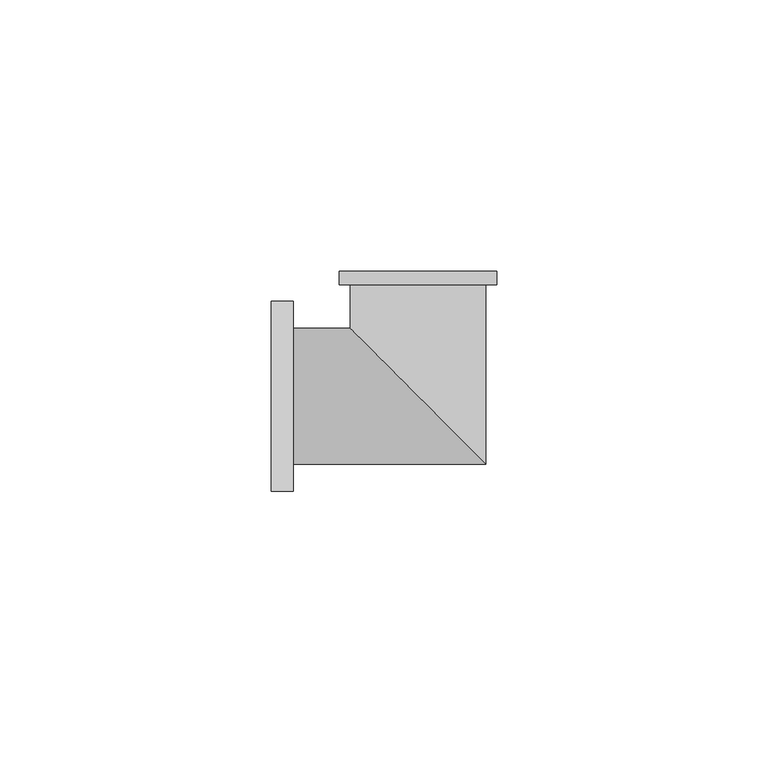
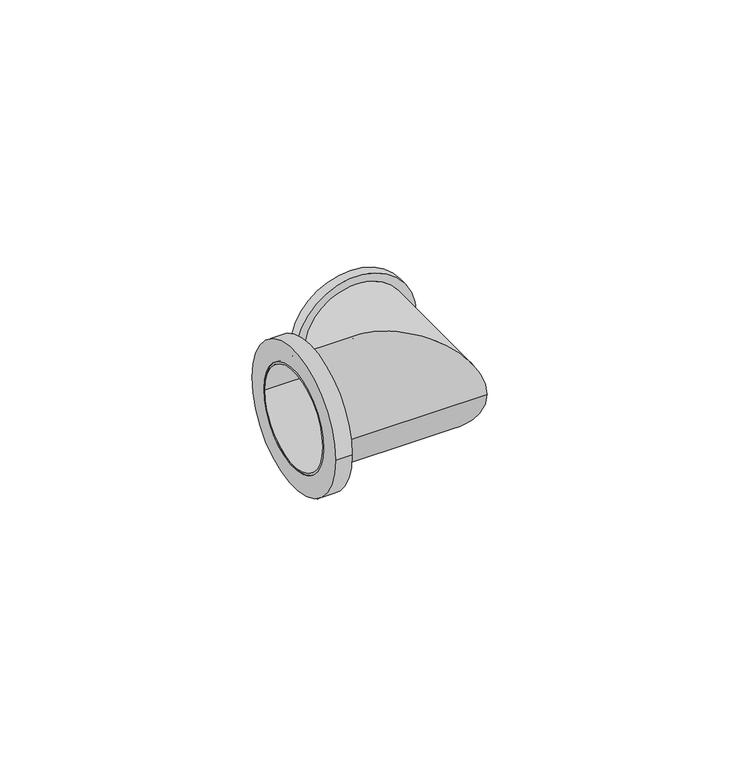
"""IFC4 building model written with IfcOpenShell, lengths in millimetres: pipe fitting geometry, БИР ПЕКС_НПР_Угольник_Резьба_Наружная : Угольник с наружной резьбой."""

from ifc_helpers import new_model, si_unit, point, frame, origin, origin_2d, place, context, project, spatial, polyline, circle_curve, ellipse_curve, trimmed, segment, composite_curve, outline, extrude, source, transform, mapped, element, save
from ifc_brep_helpers import plane_surface, cylinder_surface, revolved_surface, advanced_brep


def pipe_fitting_bd4aa50e(model_context):
    return source(origin(), model_context, "Body", "SolidModel", [
        extrude(outline(composite_curve([segment(trimmed(circle_curve(origin_2d(), 17.5), [point((-17.5, 0.0))], [point((17.5, 0.0))], False, "CARTESIAN"), True, "CONTINUOUS"), segment(trimmed(circle_curve(origin_2d(), 17.5), [point((17.5, 0.0))], [point((-17.5, 0.0))], False, "CARTESIAN"), True, "CONTINUOUS")], self_intersect=False), holes=[composite_curve([segment(trimmed(circle_curve(origin_2d(), 12.5), [point((-12.5, 0.0))], [point((12.5, 0.0))], True, "CARTESIAN"), True, "CONTINUOUS"), segment(trimmed(circle_curve(origin_2d(), 12.5), [point((12.5, 0.0))], [point((-12.5, 0.0))], True, "CARTESIAN"), True, "CONTINUOUS")], self_intersect=False)]), frame((-27.0, 0.0, 0.0), z_axis=(1.0, 0.0, 0.0), x_axis=(0.0, 1.0, 0.0)), (0.0, 0.0, 1.0), 4.0),
        advanced_brep(
        [(-27.0, -12.5, 0.0), (-27.0, 12.5, 0.0), (-27.0, -12.0, 0.0), (-27.0, 12.0, 0.0), (12.5, -12.5, 0.0), (-12.5, 12.5, 0.0), (-14.5, 23.0, 0.0), (14.5, 23.0, 0.0), (12.0, 23.0, 0.0), (-12.0, 23.0, 0.0), (12.5, 20.5, 0.0), (-12.5, 20.5, 0.0), (-14.5, 20.5, 0.0), (14.5, 20.5, 0.0), (12.0, -12.0, 0.0), (-12.0, 12.0, 0.0)],
        [
            (0, 1, circle_curve(frame((-27.0, 0.0, 0.0), z_axis=(-1.0, 0.0, 0.0), x_axis=(0.0, 1.0, 0.0)), 12.5)),
            (1, 0, circle_curve(frame((-27.0, 0.0, 0.0), z_axis=(-1.0, 0.0, 0.0), x_axis=(0.0, 1.0, 0.0)), 12.5)),
            (2, 3, circle_curve(frame((-27.0, 0.0, 0.0), z_axis=(1.0, 0.0, 0.0), x_axis=(0.0, 1.0, 0.0)), 12.0)),
            (3, 2, circle_curve(frame((-27.0, 0.0, 0.0), z_axis=(1.0, 0.0, 0.0), x_axis=(0.0, 1.0, 0.0)), 12.0)),
            (0, 4),
            (4, 5, ellipse_curve(frame((0.0, 0.0, 0.0), z_axis=(-0.7071067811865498, -0.7071067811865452, 0.0), x_axis=(-0.7071067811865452, 0.7071067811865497, 0.0)), 17.6776695, 12.5)),
            (5, 1),
            (5, 4, ellipse_curve(frame((0.0, 0.0, 0.0), z_axis=(-0.7071067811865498, -0.7071067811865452, 0.0), x_axis=(-0.7071067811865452, 0.7071067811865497, 0.0)), 17.6776695, 12.5)),
            (6, 7, circle_curve(frame((0.0, 23.0, 0.0), z_axis=(0.0, 1.0, 0.0), x_axis=(1.0, 0.0, 0.0)), 14.5)),
            (7, 6, circle_curve(frame((0.0, 23.0, 0.0), z_axis=(0.0, 1.0, 0.0), x_axis=(1.0, 0.0, 0.0)), 14.5)),
            (8, 9, circle_curve(frame((0.0, 23.0, 0.0), z_axis=(0.0, -1.0, 0.0), x_axis=(-1.0, 0.0, 0.0)), 12.0)),
            (9, 8, circle_curve(frame((0.0, 23.0, 0.0), z_axis=(0.0, -1.0, 0.0), x_axis=(-1.0, 0.0, 0.0)), 12.0)),
            (4, 10),
            (10, 11, circle_curve(frame((0.0, 20.5, 0.0), z_axis=(0.0, -1.0, 0.0), x_axis=(-1.0, 0.0, 0.0)), 12.5)),
            (11, 5),
            (11, 10, circle_curve(frame((0.0, 20.5, 0.0), z_axis=(0.0, -1.0, 0.0), x_axis=(-1.0, 0.0, 0.0)), 12.5)),
            (12, 13, circle_curve(frame((0.0, 20.5, 0.0), z_axis=(0.0, -1.0, 0.0), x_axis=(1.0, 0.0, 0.0)), 14.5)),
            (13, 12, circle_curve(frame((0.0, 20.5, 0.0), z_axis=(0.0, -1.0, 0.0), x_axis=(1.0, 0.0, 0.0)), 14.5)),
            (12, 6),
            (7, 13),
            (2, 14),
            (14, 15, ellipse_curve(frame((0.0, 0.0, 0.0), z_axis=(0.7071067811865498, 0.7071067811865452, 0.0), x_axis=(0.7071067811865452, -0.7071067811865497, 0.0)), 16.9705627, 12.0)),
            (15, 3),
            (15, 14, ellipse_curve(frame((0.0, 0.0, 0.0), z_axis=(0.7071067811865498, 0.7071067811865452, 0.0), x_axis=(0.7071067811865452, -0.7071067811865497, 0.0)), 16.9705627, 12.0)),
            (9, 15),
            (14, 8),
        ],
        [
            plane_surface(frame((-27.0, 0.0, 0.0), z_axis=(-1.0, 0.0, 0.0), x_axis=(0.0, 0.0, 1.0))),
            cylinder_surface(frame((-27.0, 0.0, 0.0), z_axis=(-1.0, 0.0, 0.0), x_axis=(0.0, 1.0, 0.0)), 12.5),
            plane_surface(frame((0.0, 23.0, 0.0), z_axis=(0.0, 1.0, 0.0), x_axis=(0.0, 0.0, 1.0))),
            cylinder_surface(frame((0.0, 0.0, 0.0), z_axis=(0.0, -1.0, 0.0), x_axis=(-1.0, 0.0, 0.0)), 12.5),
            plane_surface(frame((14.5, 20.5, 0.0), z_axis=(0.0, -1.0, 0.0), x_axis=(0.0, 0.0, 1.0))),
            cylinder_surface(frame((0.0, 23.0, 0.0), z_axis=(0.0, -1.0, 0.0), x_axis=(1.0, 0.0, 0.0)), 14.5),
            revolved_surface(polyline([(12.0, 12.0, 0.0), (-27.0, 12.0, 0.0)]), (-27.0, 0.0, 0.0), (1.0, 0.0, 0.0)),
            revolved_surface(polyline([(-12.0, 23.0, 0.0), (-12.0, -12.0, 0.0)]), (0.0, 0.0, 0.0), (0.0, 1.0, 0.0)),
        ],
        [
            (0, [[1, 2], [3, 4]]),
            (1, [[-1, 5, 6, 7]]),
            (1, [[-2, -7, 8, -5]]),
            (2, [[9, 10], [11, 12]]),
            (3, [[-6, 13, 14, 15]]),
            (3, [[-8, -15, 16, -13]]),
            (4, [[17, 18], [-14, -16]]),
            (5, [[-17, 19, -10, 20]]),
            (5, [[-18, -20, -9, -19]]),
            (6, [[-3, 21, 22, 23]]),
            (6, [[-4, -23, 24, -21]]),
            (7, [[-12, 25, -22, 26]]),
            (7, [[-11, -26, -24, -25]]),
        ],
    ),
    ])


if __name__ == "__main__":
    model = new_model("IFC4")
    model_context = context("Model", 3, world=origin())
    ifc_project = project(units=[si_unit("LENGTHUNIT", "METRE", prefix="MILLI")], contexts=[model_context])
    site = spatial("IfcSite", under=ifc_project)
    building = spatial("IfcBuilding", under=site)
    placement = place(None, origin())
    pipe_fitting_shape = pipe_fitting_bd4aa50e(model_context)
    element("IfcPipeFitting", 1, ObjectType="БИР ПЕКС_НПР_Угольник_Резьба_Наружная : Угольник с наружной резьбой", at=placement, inside=building, context=model_context, shape_type="MappedRepresentation", body=[
        mapped(pipe_fitting_shape, transform((0.0, 0.0, 0.0), x_axis=(1.0, 0.0, 0.0), y_axis=(0.0, 1.0, 0.0), z_axis=(0.0, 0.0, 1.0))),
    ])
    save(model, "model.ifc")
